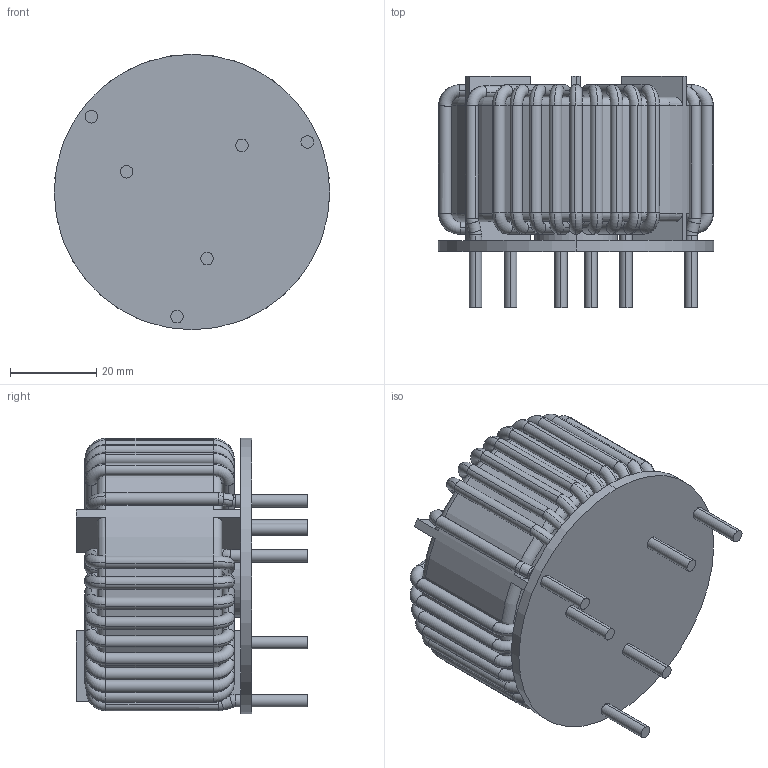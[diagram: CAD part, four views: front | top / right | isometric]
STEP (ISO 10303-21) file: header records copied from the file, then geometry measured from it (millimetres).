
FILE_DESCRIPTION (( 'STEP AP203' ), '1' );
FILE_NAME ('TPC-352U-B45A-SW.STEP', '2020-12-04T13:56:24', ( 'Windows User' ), ( '' ), 'SwSTEP 2.0', 'SolidWorks 2015', '' );
FILE_SCHEMA (( 'CONFIG_CONTROL_DESIGN' ));
Length unit declared in the file: inch
Products named in the file (5): TPC-352U-B45A-FRAME-SW; TPC-352U-B45A-SW; TPC-352U-B45A-CORE-SW; TPC-352U-B45A-COIL-SW; TPC-352U-B45A-SPACER-SW
Assembly tree (4 placements, depth 2):
  TPC-352U-B45A-SW
    TPC-352U-B45A-CORE-SW
    TPC-352U-B45A-COIL-SW
    TPC-352U-B45A-FRAME-SW
    TPC-352U-B45A-SPACER-SW
Bounding box: 64.06 x 53.83 x 64.06 mm (x, y, z)
Volume: 89011.8 mm3; surface area: 45690.3 mm2
Topology: 12 solids, 12 shells, 656 faces, 1915 edges, 1233 vertices
Faces by surface type: torus 319, cylinder 294, plane 43
Entity records: 25294 total; most frequent: CARTESIAN_POINT 6941, DIRECTION 4142, ORIENTED_EDGE 3830, AXIS2_PLACEMENT_3D 1927, EDGE_CURVE 1915, CIRCLE 1264, VERTEX_POINT 1233, EDGE_LOOP 670
